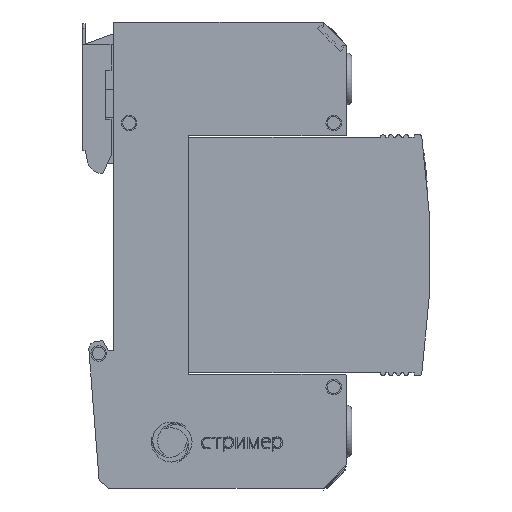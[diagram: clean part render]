
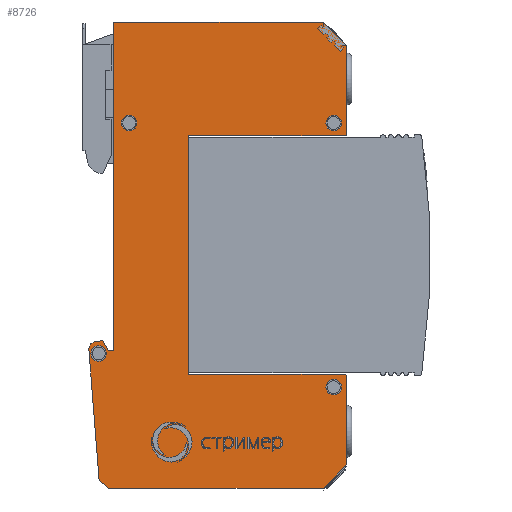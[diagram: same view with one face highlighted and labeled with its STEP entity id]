
A CAD part, front view. The second image highlights one B-rep face of the part: STEP entity #8726.
In plain terms, the highlighted planar face has unit normal (0, -1, 0).
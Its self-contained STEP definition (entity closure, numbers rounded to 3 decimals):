
#7036=CARTESIAN_POINT('',(-14.5,-18.,45.));
#7037=VERTEX_POINT('',#7036);
#7044=CARTESIAN_POINT('',(26.,-18.,45.));
#7045=VERTEX_POINT('',#7044);
#7046=CARTESIAN_POINT('',(-14.5,-18.,45.));
#7047=DIRECTION('',(1.,-0.,-0.));
#7048=VECTOR('',#7047,40.5);
#7049=LINE('',#7046,#7048);
#7050=EDGE_CURVE('',#7037,#7045,#7049,.T.);
#7674=CARTESIAN_POINT('',(-14.5,-18.,-18.5));
#7675=VERTEX_POINT('',#7674);
#7682=CARTESIAN_POINT('',(-14.5,-18.,-18.5));
#7683=DIRECTION('',(-0.,-0.,1.));
#7684=VECTOR('',#7683,63.5);
#7685=LINE('',#7682,#7684);
#7686=EDGE_CURVE('',#7675,#7037,#7685,.T.);
#7881=CARTESIAN_POINT('',(-15.5,-18.,-45.));
#7882=VERTEX_POINT('',#7881);
#7889=CARTESIAN_POINT('',(-17.29,-18.,-43.498));
#7890=VERTEX_POINT('',#7889);
#7891=CARTESIAN_POINT('',(-15.5,-18.,-45.));
#7892=DIRECTION('',(-0.766,-0.,0.643));
#7893=VECTOR('',#7892,2.337);
#7894=LINE('',#7891,#7893);
#7895=EDGE_CURVE('',#7882,#7890,#7894,.T.);
#7920=CARTESIAN_POINT('',(-19.273,-18.,-18.306));
#7921=VERTEX_POINT('',#7920);
#7922=CARTESIAN_POINT('',(-17.29,-18.,-43.498));
#7923=DIRECTION('',(-0.078,-0.,0.997));
#7924=VECTOR('',#7923,25.27);
#7925=LINE('',#7922,#7924);
#7926=EDGE_CURVE('',#7890,#7921,#7925,.T.);
#7952=CARTESIAN_POINT('',(-17.999,-18.,-16.704));
#7953=VERTEX_POINT('',#7952);
#7954=CARTESIAN_POINT('',(-17.777,-18.,-18.188));
#7955=DIRECTION('',(0.,1.,0.));
#7956=DIRECTION('',(0.,-0.,1.));
#7957=AXIS2_PLACEMENT_3D('',#7954,#7955,#7956);
#7958=CIRCLE('',#7957,1.5);
#7959=EDGE_CURVE('',#7921,#7953,#7958,.T.);
#7984=CARTESIAN_POINT('',(-16.632,-18.,-16.5));
#7985=VERTEX_POINT('',#7984);
#7986=CARTESIAN_POINT('',(-17.999,-18.,-16.704));
#7987=DIRECTION('',(0.989,-0.,0.148));
#7988=VECTOR('',#7987,1.383);
#7989=LINE('',#7986,#7988);
#7990=EDGE_CURVE('',#7953,#7985,#7989,.T.);
#8015=CARTESIAN_POINT('',(-15.5,-18.,-18.5));
#8016=VERTEX_POINT('',#8015);
#8017=CARTESIAN_POINT('',(-16.632,-18.,-16.5));
#8018=DIRECTION('',(0.492,0.,-0.87));
#8019=VECTOR('',#8018,2.298);
#8020=LINE('',#8017,#8019);
#8021=EDGE_CURVE('',#7985,#8016,#8020,.T.);
#8044=CARTESIAN_POINT('',(-15.5,-18.,-18.5));
#8045=DIRECTION('',(1.,-0.,-0.));
#8046=VECTOR('',#8045,1.);
#8047=LINE('',#8044,#8046);
#8048=EDGE_CURVE('',#8016,#7675,#8047,.T.);
#8068=CARTESIAN_POINT('',(30.5,-18.,40.5));
#8069=VERTEX_POINT('',#8068);
#8070=CARTESIAN_POINT('',(26.,-18.,45.));
#8071=DIRECTION('',(0.707,0.,-0.707));
#8072=VECTOR('',#8071,6.364);
#8073=LINE('',#8070,#8072);
#8074=EDGE_CURVE('',#7045,#8069,#8073,.T.);
#8119=CARTESIAN_POINT('',(30.5,-18.,23.5));
#8120=VERTEX_POINT('',#8119);
#8121=CARTESIAN_POINT('',(30.5,-18.,40.5));
#8122=DIRECTION('',(-0.,0.,-1.));
#8123=VECTOR('',#8122,17.);
#8124=LINE('',#8121,#8123);
#8125=EDGE_CURVE('',#8069,#8120,#8124,.T.);
#8151=CARTESIAN_POINT('',(30.,-18.,23.));
#8152=VERTEX_POINT('',#8151);
#8153=CARTESIAN_POINT('',(30.,-18.,23.5));
#8154=DIRECTION('',(0.,1.,0.));
#8155=DIRECTION('',(0.,-0.,1.));
#8156=AXIS2_PLACEMENT_3D('',#8153,#8154,#8155);
#8157=CIRCLE('',#8156,0.5);
#8158=EDGE_CURVE('',#8120,#8152,#8157,.T.);
#8183=CARTESIAN_POINT('',(0.,-18.,23.));
#8184=VERTEX_POINT('',#8183);
#8185=CARTESIAN_POINT('',(30.,-18.,23.));
#8186=DIRECTION('',(-1.,-0.,-0.));
#8187=VECTOR('',#8186,30.);
#8188=LINE('',#8185,#8187);
#8189=EDGE_CURVE('',#8152,#8184,#8188,.T.);
#8214=CARTESIAN_POINT('',(0.,-18.,-23.));
#8215=VERTEX_POINT('',#8214);
#8216=CARTESIAN_POINT('',(0.,-18.,23.));
#8217=DIRECTION('',(-0.,0.,-1.));
#8218=VECTOR('',#8217,46.);
#8219=LINE('',#8216,#8218);
#8220=EDGE_CURVE('',#8184,#8215,#8219,.T.);
#8245=CARTESIAN_POINT('',(30.,-18.,-23.));
#8246=VERTEX_POINT('',#8245);
#8247=CARTESIAN_POINT('',(0.,-18.,-23.));
#8248=DIRECTION('',(1.,-0.,-0.));
#8249=VECTOR('',#8248,30.);
#8250=LINE('',#8247,#8249);
#8251=EDGE_CURVE('',#8215,#8246,#8250,.T.);
#8277=CARTESIAN_POINT('',(30.5,-18.,-23.5));
#8278=VERTEX_POINT('',#8277);
#8279=CARTESIAN_POINT('',(30.,-18.,-23.5));
#8280=DIRECTION('',(0.,1.,0.));
#8281=DIRECTION('',(0.,-0.,1.));
#8282=AXIS2_PLACEMENT_3D('',#8279,#8280,#8281);
#8283=CIRCLE('',#8282,0.5);
#8284=EDGE_CURVE('',#8246,#8278,#8283,.T.);
#8329=CARTESIAN_POINT('',(30.5,-18.,-40.5));
#8330=VERTEX_POINT('',#8329);
#8331=CARTESIAN_POINT('',(30.5,-18.,-23.5));
#8332=DIRECTION('',(-0.,0.,-1.));
#8333=VECTOR('',#8332,17.);
#8334=LINE('',#8331,#8333);
#8335=EDGE_CURVE('',#8278,#8330,#8334,.T.);
#8360=CARTESIAN_POINT('',(26.,-18.,-45.));
#8361=VERTEX_POINT('',#8360);
#8362=CARTESIAN_POINT('',(30.5,-18.,-40.5));
#8363=DIRECTION('',(-0.707,0.,-0.707));
#8364=VECTOR('',#8363,6.364);
#8365=LINE('',#8362,#8364);
#8366=EDGE_CURVE('',#8330,#8361,#8365,.T.);
#8382=CARTESIAN_POINT('',(-17.38,-18.,-17.5));
#8383=VERTEX_POINT('',#8382);
#8384=CARTESIAN_POINT('',(-18.88,-18.,-19.));
#8385=VERTEX_POINT('',#8384);
#8386=CARTESIAN_POINT('',(-17.38,-18.,-19.));
#8387=DIRECTION('',(0.,1.,0.));
#8388=DIRECTION('',(0.,-0.,1.));
#8389=AXIS2_PLACEMENT_3D('',#8386,#8387,#8388);
#8390=CIRCLE('',#8389,1.5);
#8391=EDGE_CURVE('',#8383,#8385,#8390,.T.);
#8393=CARTESIAN_POINT('',(-17.38,-18.,-19.));
#8394=DIRECTION('',(0.,1.,0.));
#8395=DIRECTION('',(0.,-0.,1.));
#8396=AXIS2_PLACEMENT_3D('',#8393,#8394,#8395);
#8397=CIRCLE('',#8396,1.5);
#8398=EDGE_CURVE('',#8385,#8383,#8397,.T.);
#8428=CARTESIAN_POINT('',(28.,-18.,-24.));
#8429=VERTEX_POINT('',#8428);
#8430=CARTESIAN_POINT('',(26.5,-18.,-25.5));
#8431=VERTEX_POINT('',#8430);
#8432=CARTESIAN_POINT('',(28.,-18.,-25.5));
#8433=DIRECTION('',(0.,1.,0.));
#8434=DIRECTION('',(0.,-0.,1.));
#8435=AXIS2_PLACEMENT_3D('',#8432,#8433,#8434);
#8436=CIRCLE('',#8435,1.5);
#8437=EDGE_CURVE('',#8429,#8431,#8436,.T.);
#8439=CARTESIAN_POINT('',(28.,-18.,-25.5));
#8440=DIRECTION('',(0.,1.,0.));
#8441=DIRECTION('',(0.,-0.,1.));
#8442=AXIS2_PLACEMENT_3D('',#8439,#8440,#8441);
#8443=CIRCLE('',#8442,1.5);
#8444=EDGE_CURVE('',#8431,#8429,#8443,.T.);
#8474=CARTESIAN_POINT('',(-11.5,-18.,27.));
#8475=VERTEX_POINT('',#8474);
#8476=CARTESIAN_POINT('',(-13.,-18.,25.5));
#8477=VERTEX_POINT('',#8476);
#8478=CARTESIAN_POINT('',(-11.5,-18.,25.5));
#8479=DIRECTION('',(0.,1.,0.));
#8480=DIRECTION('',(0.,-0.,1.));
#8481=AXIS2_PLACEMENT_3D('',#8478,#8479,#8480);
#8482=CIRCLE('',#8481,1.5);
#8483=EDGE_CURVE('',#8475,#8477,#8482,.T.);
#8485=CARTESIAN_POINT('',(-11.5,-18.,25.5));
#8486=DIRECTION('',(0.,1.,0.));
#8487=DIRECTION('',(0.,-0.,1.));
#8488=AXIS2_PLACEMENT_3D('',#8485,#8486,#8487);
#8489=CIRCLE('',#8488,1.5);
#8490=EDGE_CURVE('',#8477,#8475,#8489,.T.);
#8520=CARTESIAN_POINT('',(28.,-18.,27.));
#8521=VERTEX_POINT('',#8520);
#8522=CARTESIAN_POINT('',(26.5,-18.,25.5));
#8523=VERTEX_POINT('',#8522);
#8524=CARTESIAN_POINT('',(28.,-18.,25.5));
#8525=DIRECTION('',(0.,1.,0.));
#8526=DIRECTION('',(0.,-0.,1.));
#8527=AXIS2_PLACEMENT_3D('',#8524,#8525,#8526);
#8528=CIRCLE('',#8527,1.5);
#8529=EDGE_CURVE('',#8521,#8523,#8528,.T.);
#8531=CARTESIAN_POINT('',(28.,-18.,25.5));
#8532=DIRECTION('',(0.,1.,0.));
#8533=DIRECTION('',(0.,-0.,1.));
#8534=AXIS2_PLACEMENT_3D('',#8531,#8532,#8533);
#8535=CIRCLE('',#8534,1.5);
#8536=EDGE_CURVE('',#8523,#8521,#8535,.T.);
#8675=CARTESIAN_POINT('',(26.,-18.,-45.));
#8676=DIRECTION('',(-1.,-0.,-0.));
#8677=VECTOR('',#8676,41.5);
#8678=LINE('',#8675,#8677);
#8679=EDGE_CURVE('',#8361,#7882,#8678,.T.);
#8685=CARTESIAN_POINT('',(0.,-18.,-0.));
#8686=DIRECTION('',(0.,1.,0.));
#8687=DIRECTION('',(0.,0.,-1.));
#8688=AXIS2_PLACEMENT_3D('',#8685,#8686,#8687);
#8689=PLANE('',#8688);
#8690=ORIENTED_EDGE('',*,*,#8536,.T.);
#8691=ORIENTED_EDGE('',*,*,#8529,.T.);
#8692=EDGE_LOOP('',(#8690,#8691));
#8693=FACE_BOUND('',#8692,.T.);
#8694=ORIENTED_EDGE('',*,*,#8490,.T.);
#8695=ORIENTED_EDGE('',*,*,#8483,.T.);
#8696=EDGE_LOOP('',(#8694,#8695));
#8697=FACE_BOUND('',#8696,.T.);
#8698=ORIENTED_EDGE('',*,*,#8444,.T.);
#8699=ORIENTED_EDGE('',*,*,#8437,.T.);
#8700=EDGE_LOOP('',(#8698,#8699));
#8701=FACE_BOUND('',#8700,.T.);
#8702=ORIENTED_EDGE('',*,*,#8398,.T.);
#8703=ORIENTED_EDGE('',*,*,#8391,.T.);
#8704=EDGE_LOOP('',(#8702,#8703));
#8705=FACE_BOUND('',#8704,.T.);
#8706=ORIENTED_EDGE('',*,*,#7895,.F.);
#8707=ORIENTED_EDGE('',*,*,#8679,.F.);
#8708=ORIENTED_EDGE('',*,*,#8366,.F.);
#8709=ORIENTED_EDGE('',*,*,#8335,.F.);
#8710=ORIENTED_EDGE('',*,*,#8284,.F.);
#8711=ORIENTED_EDGE('',*,*,#8251,.F.);
#8712=ORIENTED_EDGE('',*,*,#8220,.F.);
#8713=ORIENTED_EDGE('',*,*,#8189,.F.);
#8714=ORIENTED_EDGE('',*,*,#8158,.F.);
#8715=ORIENTED_EDGE('',*,*,#8125,.F.);
#8716=ORIENTED_EDGE('',*,*,#8074,.F.);
#8717=ORIENTED_EDGE('',*,*,#7050,.F.);
#8718=ORIENTED_EDGE('',*,*,#7686,.F.);
#8719=ORIENTED_EDGE('',*,*,#8048,.F.);
#8720=ORIENTED_EDGE('',*,*,#8021,.F.);
#8721=ORIENTED_EDGE('',*,*,#7990,.F.);
#8722=ORIENTED_EDGE('',*,*,#7959,.F.);
#8723=ORIENTED_EDGE('',*,*,#7926,.F.);
#8724=EDGE_LOOP('',(#8706,#8707,#8708,#8709,#8710,#8711,#8712,#8713,#8714,#8715,#8716,#8717,#8718,#8719,#8720,#8721,#8722,#8723));
#8725=FACE_BOUND('',#8724,.T.);
#8726=ADVANCED_FACE('',(#8693,#8697,#8701,#8705,#8725),#8689,.F.);
